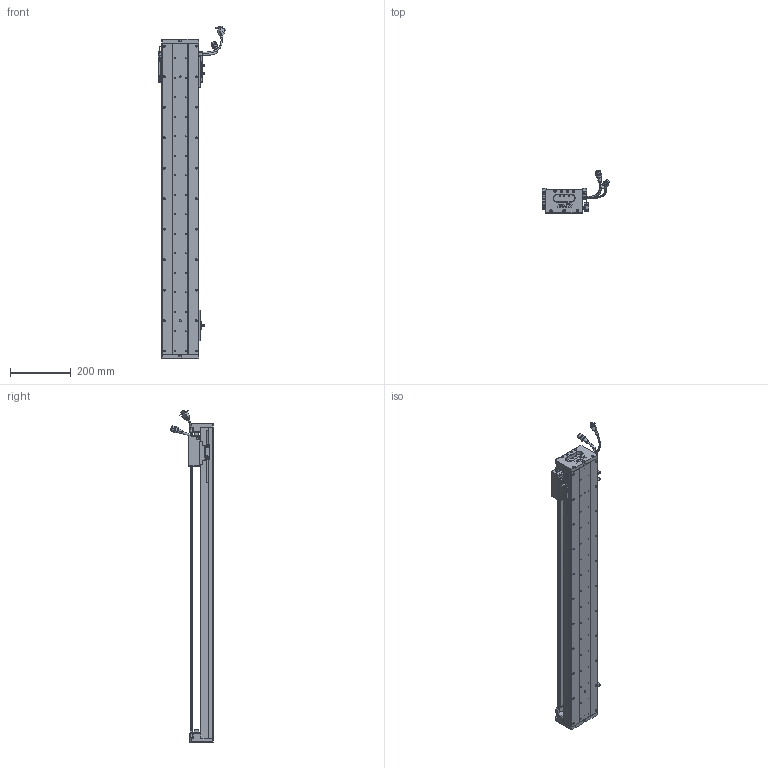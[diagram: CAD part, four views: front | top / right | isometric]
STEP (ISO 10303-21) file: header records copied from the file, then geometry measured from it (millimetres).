
FILE_DESCRIPTION (( 'STEP AP203' ), '1' );
FILE_NAME ('Z1-RY120D-1-L500-B-K.SLDASM_0850.step', '2021-05-17T03:45:38', ( '盈信电脑' ), ( '东莞市道滘镇水果街19号' ), 'SwSTEP 2.0', 'SolidWorks 2016', '' );
FILE_SCHEMA (( 'CONFIG_CONTROL_DESIGN' ));
Length unit declared in the file: millimetre
Products named in the file (37): LABEL-Part-1; SCREW-M1.6-3; Z-120詩湍傷裔啣; HARNESS-Part-1; HOLDER0; Z1-RY120-500-倰第菁釱_0850; SCALE; 080黍杅芛假蚾釱21遴; SCREW-M1.7-1; Z1-RY120铝滑块（21款）; COVER-Part-1; SCREW-M1.7; SCALE-Part-2; Z-RY120D詩湍奻揤裔; SEAL-Part-1; SCREW-M1.6-1; 覜茼ん672; PSLH080_PSLF2; RY100FB-遵嫖萇覜茼え; SCREW-M1.6-2; 120-Z-臏賑輸盄裔(21遴); Z1-RY120D-1-L500-B-K.SLDASM_0850; 672嫖萇羲壽假蚾釱; HARNESS-Part-2; 140雄赽晤鎢ん堤盄; LABEL; PBU_SHEET; SHIELDPLATE; 榋妏寠巭燃_暯_M2_2; 140蚥薯蝶輸; HARNESS; SCREW-M1.6; Z-RY120D詩湍狟揤裔; SEAL; COVER; SCALE-Part-1; Z1-RY120-L500詩湍100mm遵_0850
Assembly tree (43 placements, depth 4):
  Z1-RY120D-1-L500-B-K.SLDASM_0850
    Z1-RY120-500-倰第菁釱_0850
    覜茼ん672  x3
    672嫖萇羲壽假蚾釱  x2
    Z1-RY120铝滑块（21款）
    PSLH080_PSLF2
      SCALE
        SCALE-Part-1
        SCALE-Part-2
      HARNESS
        HARNESS-Part-1
        HARNESS-Part-2
      LABEL
        LABEL-Part-1
      COVER
        COVER-Part-1
      SEAL
        SEAL-Part-1
      榋妏寠巭燃_暯_M2_2
      SHIELDPLATE
      SCREW-M1.7
      SCREW-M1.7-1
      PBU_SHEET
      SCREW-M1.6
      SCREW-M1.6-1
      SCREW-M1.6-2
      SCREW-M1.6-3
      HOLDER0
    080黍杅芛假蚾釱21遴
    120-Z-臏賑輸盄裔(21遴)
    140雄赽晤鎢ん堤盄
    140蚥薯蝶輸  x2
    RY100FB-遵嫖萇覜茼え
    Z-120詩湍傷裔啣  x2
    Z-RY120D詩湍奻揤裔  x2
    Z-RY120D詩湍狟揤裔  x2
    Z1-RY120-L500詩湍100mm遵_0850
Bounding box: 222.88 x 140.94 x 1089 mm (x, y, z)
Volume: 2749666.2 mm3; surface area: 966116.2 mm2
Topology: 38 solids, 38 shells, 2761 faces, 7498 edges, 4744 vertices
Faces by surface type: cylinder 1258, plane 1119, cone 262, torus 69, bspline 53
Entity records: 83555 total; most frequent: CARTESIAN_POINT 22768, ORIENTED_EDGE 11996, DIRECTION 11632, EDGE_CURVE 5998, AXIS2_PLACEMENT_3D 4230, VERTEX_POINT 3864, LINE 3172, VECTOR 3172
